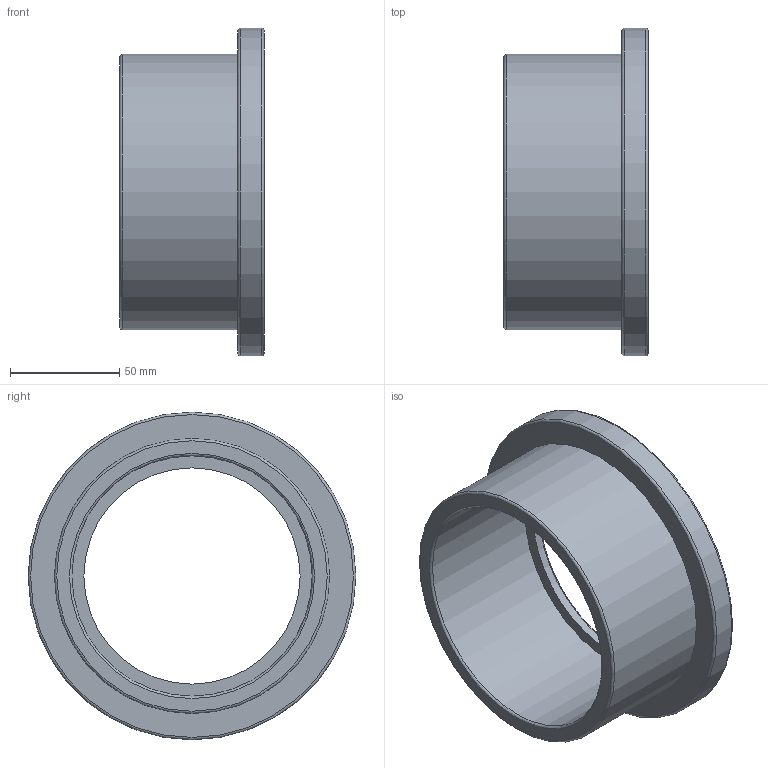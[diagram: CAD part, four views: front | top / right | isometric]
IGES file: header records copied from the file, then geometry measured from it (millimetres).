
Global section: file name: 055100110.ipt; native system: Autodesk Inventor 2015; preprocessor: unknown; author: KIM; date: 20180927.115430; units: millimetre
Bounding box: 66 x 150 x 150 mm (x, y, z)
Volume: 266674.1 mm3; surface area: 68670.6 mm2
Topology: 1 solids, 1 shells, 13 faces, 36 edges, 27 vertices
Faces by surface type: revolution 7, plane 4, cylinder 2
Full cylindrical faces by diameter (mm): 126 x1, 150 x1
